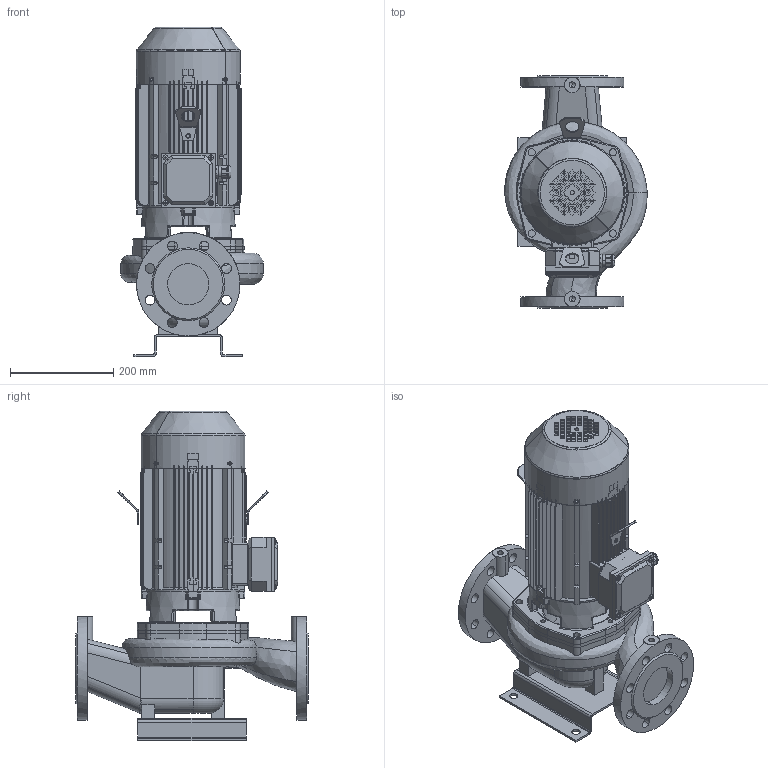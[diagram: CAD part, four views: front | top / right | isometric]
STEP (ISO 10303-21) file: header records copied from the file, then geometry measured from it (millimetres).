
FILE_DESCRIPTION(('STEP AP214'),'1');
FILE_NAME('export.stp','2018-05-28T12:23:03',(' '),(' '),'Spatial InterOp 3D',' ',' ');
FILE_SCHEMA(('AUTOMOTIVE_DESIGN { 1 0 10303 214 1 1 1 1 }'));
Length unit declared in the file: millimetre
Products named in the file (21): W_ALS10814300KP10; V_TLL65AB80A1102; V_PPAL1081; V_JALKA35973; 160027; 160005; V_MKP100-2_F19; 160141; 160137; 160138; 160139; 160140; Koura_Ale_M5; Plug_Blind_M20; Sealing_Plug_M20; DIN_7985-M5X8; DIN_7985-M5X12; 160060___; 160059___; 160136; 160134
Assembly tree (24 placements, depth 4):
  W_ALS10814300KP10
    V_TLL65AB80A1102
    V_PPAL1081
    V_JALKA35973
    V_MKP100-2_F19
      160027
        160005
      160141
        160137
        160138
        160139
        160140
        Koura_Ale_M5
        Plug_Blind_M20
        Sealing_Plug_M20
        DIN_7985-M5X8
        DIN_7985-M5X12  x4
      160060___
      160059___
      160136
      160134  x2
Bounding box: 275.5 x 450 x 637 mm (x, y, z)
Volume: 9380940 mm3; surface area: 1774449 mm2
Topology: 21 solids, 22 shells, 2539 faces, 6820 edges, 4325 vertices
Faces by surface type: plane 1081, cylinder 804, bspline 253, torus 239, cone 147, sphere 15
Entity records: 99343 total; most frequent: CARTESIAN_POINT 34745, ORIENTED_EDGE 13104, DIRECTION 12050, EDGE_CURVE 6554, AXIS2_PLACEMENT_3D 4504, VERTEX_POINT 4181, LINE 3042, VECTOR 3042
